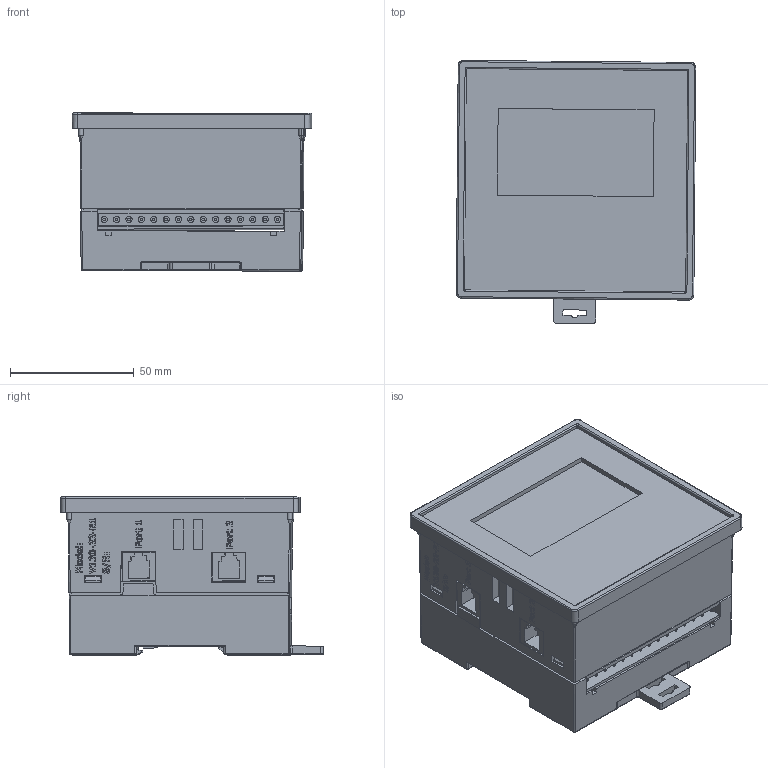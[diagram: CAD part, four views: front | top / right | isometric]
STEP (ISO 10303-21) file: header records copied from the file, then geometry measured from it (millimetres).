
FILE_DESCRIPTION (( 'STEP AP203' ), '1' );
FILE_NAME ('V120-22-XX.STEP', '2011-06-01T11:01:32', ( 'unitronics' ), ( 'unitronics' ), 'SwSTEP 2.0', 'SolidWorks 2009', '' );
FILE_SCHEMA (( 'CONFIG_CONTROL_DESIGN' ));
Length unit declared in the file: millimetre
Products named in the file (2): Part28^M90-2; V120-22-XX
Assembly tree (1 placements, depth 2):
  V120-22-XX
    Part28^M90-2
Bounding box: 96.8 x 106.18 x 63.83 mm (x, y, z)
Volume: 450362.2 mm3; surface area: 142308.6 mm2
Topology: 11 solids, 11 shells, 1631 faces, 4514 edges, 3028 vertices
Faces by surface type: plane 1034, bspline 315, cylinder 252, cone 22, torus 8
Entity records: 65328 total; most frequent: CARTESIAN_POINT 25735, ORIENTED_EDGE 9018, DIRECTION 6639, EDGE_CURVE 4509, VECTOR 3157, LINE 3157, VERTEX_POINT 3028, EDGE_LOOP 1807
